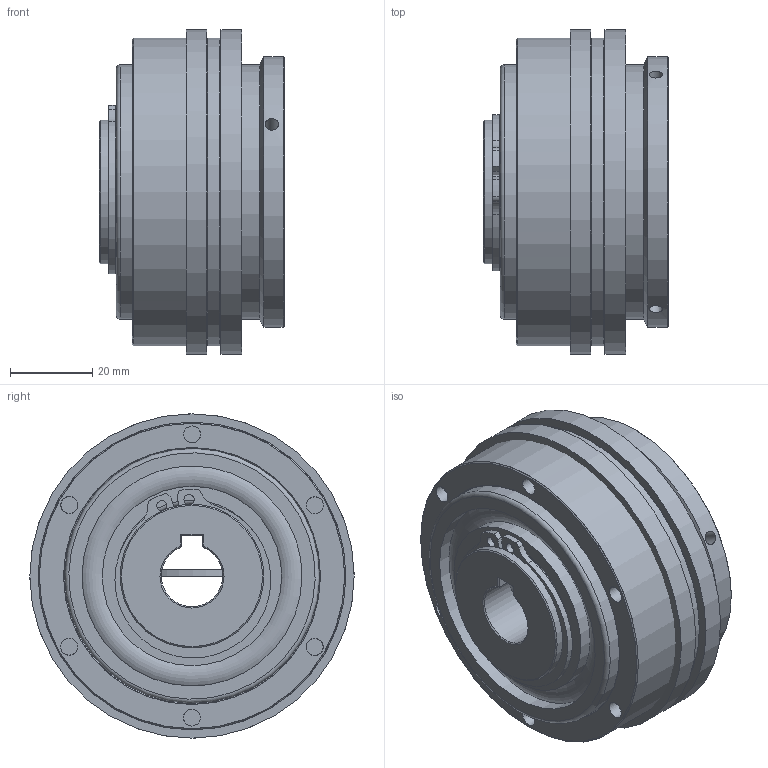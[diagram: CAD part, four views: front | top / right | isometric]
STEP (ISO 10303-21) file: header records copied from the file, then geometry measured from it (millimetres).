
FILE_DESCRIPTION( ( 'Unknown' ), '1' );
FILE_NAME( 'C:/Dokumente und Einstellungen/Sven/Desktop/hp kbk/KBK L-P-60.stp', 'Unknown', ( 'Unknown' ), ( 'Unknown' ), 'XStep 1.0', 'Unknown', ' ' );
FILE_SCHEMA( ( 'automotive_design' ) );
Length unit declared in the file: millimetre
Products named in the file (10): Assem1; Assem2; ball_bearing_-_6007_0_01; ball_bearing_-_6007_0_02; ball_bearing_-_6007_0_03; KBK L-P-60 Grundkörper; Stellring 60; Druckring 60; Flansch 60; a_35
Bounding box: 45.08 x 79 x 79 mm (x, y, z)
Surface area: 139537.2 mm2
Topology: 19 solids, 19 shells, 227 faces, 454 edges, 285 vertices
Faces by surface type: cylinder 90, plane 84, cone 28, torus 25
Full cylindrical faces by diameter (mm): 2.5 x4, 3.242 x6, 4 x6, 4.134 x12, 33 x2, 35 x7, 43.7 x6, 44 x2, 46 x4, 46.5 x2, 53.6 x6, 61.3 x2, 62 x5, 66 x2, 75 x4, 79 x2
Entity records: 3115 total; most frequent: CARTESIAN_POINT 689, DIRECTION 470, ORIENTED_EDGE 292, AXIS2_PLACEMENT_3D 215, EDGE_LOOP 192, EDGE_CURVE 146, FACE_OUTER_BOUND 145, VERTEX_POINT 122
